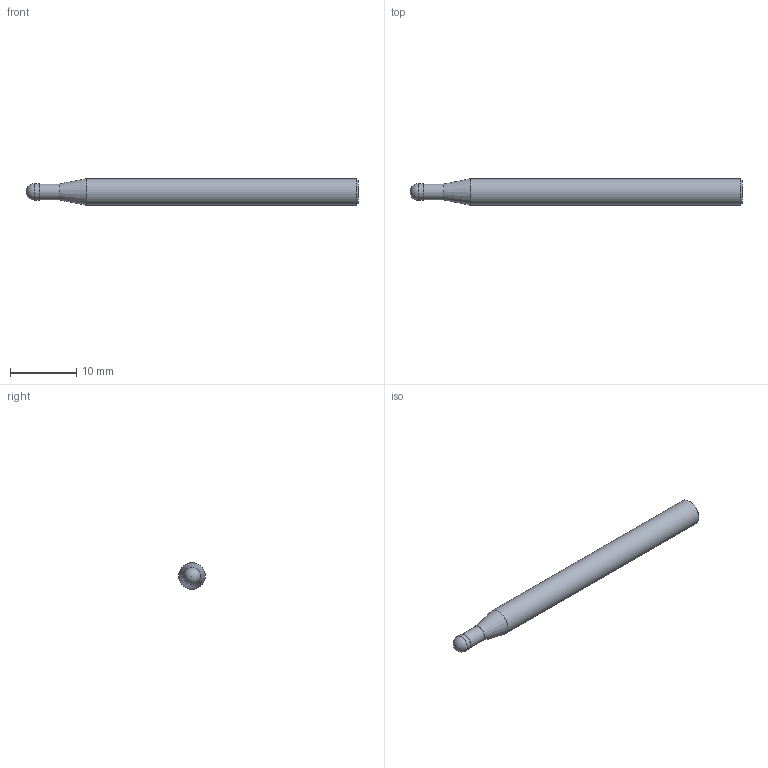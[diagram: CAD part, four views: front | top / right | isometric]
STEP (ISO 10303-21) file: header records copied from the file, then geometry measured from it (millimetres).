
FILE_DESCRIPTION(/* description */ (''),/* implementation_level */ '2;1');
FILE_NAME(/* name */ 'HSXB2025 0450.stp',/* time_stamp */ '2026-08-01T16:32:58+08:00',/* author */ (''),/* organization */ (''),/* preprocessor_version */ 'ST-DEVELOPER v16',/* originating_system */ 'SIEMENS PLM Software NX 10.0',/* authorisation */ '');
FILE_SCHEMA (('CONFIG_CONTROL_DESIGN'));
Length unit declared in the file: millimetre
Products named in the file (1): HSXB2025 0450_dxf
Bounding box: 50 x 4 x 4 mm (x, y, z)
Volume: 568.7 mm3; surface area: 614.7 mm2
Topology: 2 solids, 2 shells, 9 faces, 15 edges, 9 vertices
Faces by surface type: plane 3, cylinder 3, cone 2, sphere 1
Full cylindrical faces by diameter (mm): 2.4 x1, 2.5 x1, 4 x1
Entity records: 246 total; most frequent: DIRECTION 34, CARTESIAN_POINT 24, AXIS2_PLACEMENT_3D 17, EDGE_LOOP 14, ORIENTED_EDGE 14, FACE_BOUND 10, ADVANCED_FACE 9, PERSON_AND_ORGANIZATION 7
